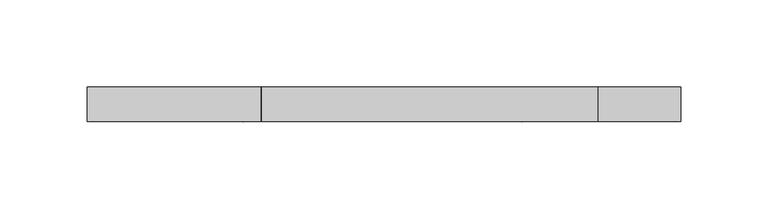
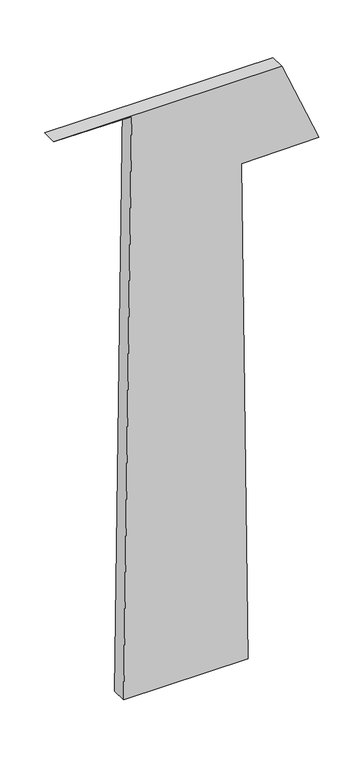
"""IFC4 building model written with IfcOpenShell, lengths in millimetres: plate geometry, 空系统嵌板 : 空."""

import ifcopenshell
import ifcopenshell.guid

model = None  # the IFC model being written
_history = None  # IfcOwnerHistory: only IFC2X3 demands one
_inside = {}  # id of a spatial element -> (the spatial element, [elements in it])
_under = {}  # id of a project, library or spatial element -> (it, [spatial elements below it])
_declared = {}  # id of a project -> (the project, [libraries it declares])
_typed = {}  # id of a type object -> (the type object, [elements of that type])
_made_of = {}  # id of a material, layer set ... -> (it, [elements and type objects made of it])


def new_model(schema):
    """Start an empty IFC model of exactly this schema.

    Asked for "IFC4X3", IfcOpenShell would pick the latest addendum, in which some entities
    have other attributes; the version numbers below select the first issue.
    IFC2X3 requires an IfcOwnerHistory on every rooted entity: one is made here for all.
    """
    global model, _history
    if schema == "IFC4X3":
        model = ifcopenshell.file(schema_version=(4, 3, 0, 0))
    else:
        model = ifcopenshell.file(schema=schema)
    _inside.clear()
    _under.clear()
    _declared.clear()
    _typed.clear()
    _made_of.clear()
    _history = None
    if model.schema == "IFC2X3":
        org = make("IfcOrganization", Name="unknown")
        user = make(
            "IfcPersonAndOrganization",
            ThePerson=make("IfcPerson", FamilyName="unknown"),
            TheOrganization=org,
        )
        app = make(
            "IfcApplication",
            ApplicationDeveloper=org,
            Version="unknown",
            ApplicationFullName="unknown",
            ApplicationIdentifier="unknown",
        )
        _history = make(
            "IfcOwnerHistory",
            OwningUser=user,
            OwningApplication=app,
            ChangeAction="ADDED",
            CreationDate=0,
        )
    return model


def make(cls, **values):
    """One entity of the class cls with the attributes given. An attribute that is None is left unset."""
    return model.create_entity(
        cls, **{name: value for name, value in values.items() if value is not None}
    )


def rooted(cls, **values):
    """An entity with a GlobalId (a new one), such as an element, a storey or a relation."""
    return make(cls, GlobalId=ifcopenshell.guid.new(), OwnerHistory=_history, **values)


def si_unit(unit_type, name, prefix=None):
    """IfcSIUnit, for example si_unit("LENGTHUNIT", "METRE", prefix="MILLI")."""
    return make("IfcSIUnit", UnitType=unit_type, Prefix=prefix, Name=name)


def assignment(units):
    """IfcUnitAssignment: the units of a project."""
    return None if units is None else make("IfcUnitAssignment", Units=units)


def point(xyz):
    """IfcCartesianPoint."""
    return None if xyz is None else make("IfcCartesianPoint", Coordinates=xyz)


def direction(xyz):
    """IfcDirection."""
    return None if xyz is None else make("IfcDirection", DirectionRatios=xyz)


def frame(location, z_axis=None, x_axis=None):
    """IfcAxis2Placement3D, a coordinate frame: its origin and axes. An axis left out is left unset."""
    return make(
        "IfcAxis2Placement3D",
        Location=point(location),
        Axis=direction(z_axis),
        RefDirection=direction(x_axis),
    )


def origin():
    """The frame at (0, 0, 0) with its axes left unset."""
    return frame((0.0, 0.0, 0.0))


def place(relative_to, where):
    """IfcLocalPlacement: puts the frame where relative to a parent placement (None: the world)."""
    return make(
        "IfcLocalPlacement", PlacementRelTo=relative_to, RelativePlacement=where
    )


def context(
    kind, dimensions, precision=None, world=None, true_north=None, identifier=None
):
    """IfcGeometricRepresentationContext, for example the 3D "Model" context."""
    return make(
        "IfcGeometricRepresentationContext",
        ContextIdentifier=identifier,
        ContextType=kind,
        CoordinateSpaceDimension=dimensions,
        Precision=precision,
        WorldCoordinateSystem=world,
        TrueNorth=true_north,
    )


def project(units=None, contexts=None):
    """IfcProject with its units and contexts."""
    return rooted(
        "IfcProject",
        Name="project",
        RepresentationContexts=contexts,
        UnitsInContext=assignment(units),
    )


def spatial(cls, under=None, at=None, **own):
    """A site, building, storey or space (cls), placed at a placement, below another one or the project."""
    s = rooted(cls, ObjectPlacement=at, **own)
    if under is not None:
        _under.setdefault(under.id(), (under, []))[1].append(s)
    return s


def polyline(points):
    """IfcPolyline through the points."""
    return make("IfcPolyline", Points=[point(p) for p in points])


def outline(outer, holes=None, kind="AREA"):
    """IfcArbitraryClosedProfileDef: a profile drawn as a closed curve; with holes, ...WithVoids."""
    if holes is None:
        return make("IfcArbitraryClosedProfileDef", ProfileType=kind, OuterCurve=outer)
    return make(
        "IfcArbitraryProfileDefWithVoids",
        ProfileType=kind,
        OuterCurve=outer,
        InnerCurves=holes,
    )


def extrude(swept, where, along, depth):
    """IfcExtrudedAreaSolid: the profile swept, set in the frame where, extruded along a direction by depth."""
    return make(
        "IfcExtrudedAreaSolid",
        SweptArea=swept,
        Position=where,
        ExtrudedDirection=direction(along),
        Depth=depth,
    )


def shape(context_of_items, identifier, shape_type, items):
    """IfcShapeRepresentation: the items that make up one representation, for example the "Body"."""
    return make(
        "IfcShapeRepresentation",
        ContextOfItems=context_of_items,
        RepresentationIdentifier=identifier,
        RepresentationType=shape_type,
        Items=items,
    )


def source(mapping_origin, context_of_items, identifier, shape_type, items):
    """IfcRepresentationMap: a shape defined once, which mapped items show again and again."""
    return make(
        "IfcRepresentationMap",
        MappingOrigin=mapping_origin,
        MappedRepresentation=shape(context_of_items, identifier, shape_type, items),
    )


def transform(
    local_origin,
    x_axis=None,
    y_axis=None,
    z_axis=None,
    scale=None,
    scale2=None,
    scale3=None,
    uniform=True,
):
    """IfcCartesianTransformationOperator3D, or its non-uniform kind. x_axis, y_axis, z_axis: its Axis1, 2, 3."""
    if uniform:
        return make(
            "IfcCartesianTransformationOperator3D",
            Axis1=direction(x_axis),
            Axis2=direction(y_axis),
            LocalOrigin=point(local_origin),
            Scale=scale,
            Axis3=direction(z_axis),
        )
    return make(
        "IfcCartesianTransformationOperator3DnonUniform",
        Axis1=direction(x_axis),
        Axis2=direction(y_axis),
        LocalOrigin=point(local_origin),
        Scale=scale,
        Axis3=direction(z_axis),
        Scale2=scale2,
        Scale3=scale3,
    )


def mapped(mapping_source, mapping_target):
    """IfcMappedItem: shows the shape of a source again, moved by a transform."""
    return make(
        "IfcMappedItem", MappingSource=mapping_source, MappingTarget=mapping_target
    )


def made_of(thing, what):
    """Note that an element or type object is made of a material, layer set ...; save() writes the relation."""
    if what is not None:
        _made_of.setdefault(what.id(), (what, []))[1].append(thing)
    return thing


def element(
    cls,
    number,
    at=None,
    inside=None,
    cuts=None,
    type_object=None,
    material=None,
    context=None,
    identifier="Body",
    shape_type=None,
    held_by="IfcProductDefinitionShape",
    body=None,
    shapes=None,
    **own,
):
    """One element of the class cls, such as IfcWall. Its Tag is "e" and its number.

    at: its placement. inside: the storey or other place that contains it. cuts: it is an
    opening in that element (IfcRelVoidsElement). A single representation is given by context,
    identifier, shape_type and body (its items); several are given by shapes. held_by: the class
    of the entity that holds the representations. save() writes the other relations.
    """
    e = rooted(cls, Tag="e%d" % number, ObjectPlacement=at, **own)
    if body is not None:
        shapes = [shape(context, identifier, shape_type, body)]
    if shapes is not None:
        e.Representation = make(held_by, Representations=shapes)
    if inside is not None:
        _inside.setdefault(inside.id(), (inside, []))[1].append(e)
    if cuts is not None:
        rooted(
            "IfcRelVoidsElement", RelatingBuildingElement=cuts, RelatedOpeningElement=e
        )
    if type_object is not None:
        _typed.setdefault(type_object.id(), (type_object, []))[1].append(e)
    return made_of(e, material)


def aggregate(whole, parts):
    """IfcRelAggregates: a whole, such as a stair, and the parts it consists of."""
    return rooted("IfcRelAggregates", RelatingObject=whole, RelatedObjects=parts)


def save(model, path):
    """Write the relations noted so far, then the file.

    IfcRelAggregates (storeys below a building ...), IfcRelContainedInSpatialStructure (elements
    in a storey), IfcRelDefinesByType, IfcRelAssociatesMaterial and IfcRelDeclares: one each for
    every whole, place, type object, material and project.
    """
    for whole, parts in _under.values():
        aggregate(whole, parts)
    for where, things in _inside.values():
        rooted(
            "IfcRelContainedInSpatialStructure",
            RelatedElements=things,
            RelatingStructure=where,
        )
    for kind, things in _typed.values():
        rooted("IfcRelDefinesByType", RelatedObjects=things, RelatingType=kind)
    for what, things in _made_of.values():
        rooted("IfcRelAssociatesMaterial", RelatedObjects=things, RelatingMaterial=what)
    for by, libraries in _declared.values():
        rooted("IfcRelDeclares", RelatingContext=by, RelatedDefinitions=libraries)
    model.write(path)


def plate_823a82dc(model_context):
    return source(origin(), model_context, "Body", "SweptSolid", [
        extrude(outline(polyline([(0.0, -80.817016), (0.0, 79.1715103), (675.3671678, 70.6257507), (676.6324167, 170.6177461), (789.5341318, 123.121565), (790.0464918, -170.6177461), (788.7545724, -70.6260918), (0.0, -80.817016)])), frame((0.0, -10.0, 0.0), z_axis=(0.0, 1.0, 0.0), x_axis=(0.0, 0.0, 1.0)), (0.0, 0.0, 1.0), 20.0),
    ])


if __name__ == "__main__":
    model = new_model("IFC4")
    model_context = context("Model", 3, world=origin())
    ifc_project = project(units=[si_unit("LENGTHUNIT", "METRE", prefix="MILLI")], contexts=[model_context])
    site = spatial("IfcSite", under=ifc_project)
    building = spatial("IfcBuilding", under=site)
    placement = place(None, origin())
    plate_shape = plate_823a82dc(model_context)
    element("IfcPlate", 1, ObjectType="空系统嵌板 : 空", at=placement, inside=building, context=model_context, shape_type="MappedRepresentation", body=[
        mapped(plate_shape, transform((0.0, 0.0, 0.0), x_axis=(1.0, 0.0, 0.0), y_axis=(0.0, 1.0, 0.0), z_axis=(0.0, 0.0, 1.0))),
    ])
    save(model, "model.ifc")
